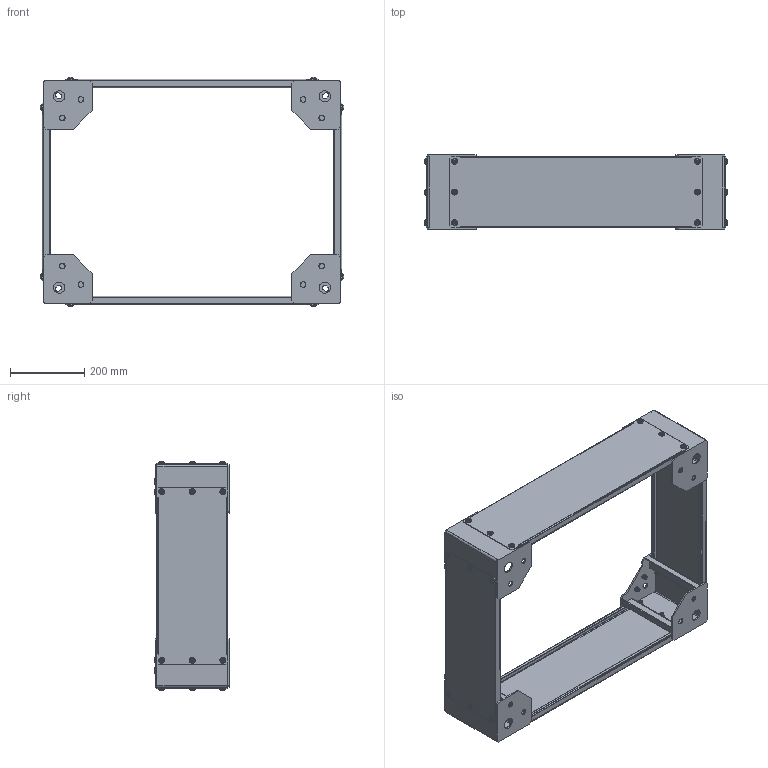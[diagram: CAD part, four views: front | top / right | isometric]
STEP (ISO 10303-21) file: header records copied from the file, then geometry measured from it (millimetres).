
FILE_DESCRIPTION (( 'STEP AP203' ), '1' );
FILE_NAME ('ZA 80.60 EQH 捘 絊膰錪.STEP', '2025-10-08T09:48:35', ( '' ), ( '' ), 'SwSTEP 2.0', 'SolidWorks 2022', '' );
FILE_SCHEMA (( 'CONFIG_CONTROL_DESIGN' ));
Length unit declared in the file: millimetre
Products named in the file (7): Шайба 8 стопорная DIN 6798; ZA 80.60 EQH СБ Цоколь; ZA 60 EQ 00.001 (Д199) Панель цоколя_ZA 80 EQ 00.001 (Д199) Панель цоколя; ZA 60 EQ 00.001 (Д199) Панель цоколя_ZA 60 EQ 00.001 (Д199) Панель цоколя; ZA 20 EQ СБ Угол цоколя; Винт М8х16 ISO 7380 c фланцем (S 8.16 MX)_S 8.16 MX; Зеркально отразитьZA 20 EQ СБ Угол цоколя
Assembly tree (56 placements, depth 2):
  ZA 80.60 EQH СБ Цоколь
    ZA 60 EQ 00.001 (Д199) Панель цоколя_ZA 80 EQ 00.001 (Д199) Панель цоколя  x2
    ZA 60 EQ 00.001 (Д199) Панель цоколя_ZA 60 EQ 00.001 (Д199) Панель цоколя  x2
    Винт М8х16 ISO 7380 c фланцем (S 8.16 MX)_S 8.16 MX  x24
    Шайба 8 стопорная DIN 6798  x24
    ZA 20 EQ СБ Угол цоколя  x2
    Зеркально отразитьZA 20 EQ СБ Угол цоколя  x2
Bounding box: 817.54 x 201.3 x 617.54 mm (x, y, z)
Volume: 2318002.8 mm3; surface area: 1905612.1 mm2
Topology: 64 solids, 112 shells, 4296 faces, 11768 edges, 7808 vertices
Faces by surface type: bspline 1440, cylinder 1408, plane 1016, torus 224, cone 160, sphere 48
Entity records: 25982 total; most frequent: CARTESIAN_POINT 5061, DIRECTION 4104, ORIENTED_EDGE 3794, EDGE_CURVE 1900, AXIS2_PLACEMENT_3D 1587, VERTEX_POINT 1242, EDGE_LOOP 935, LINE 930
